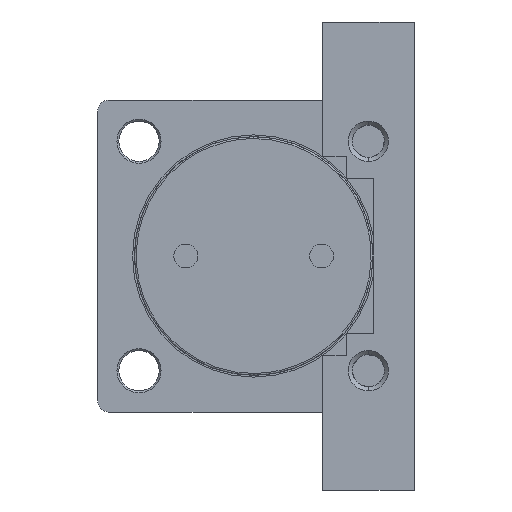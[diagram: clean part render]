
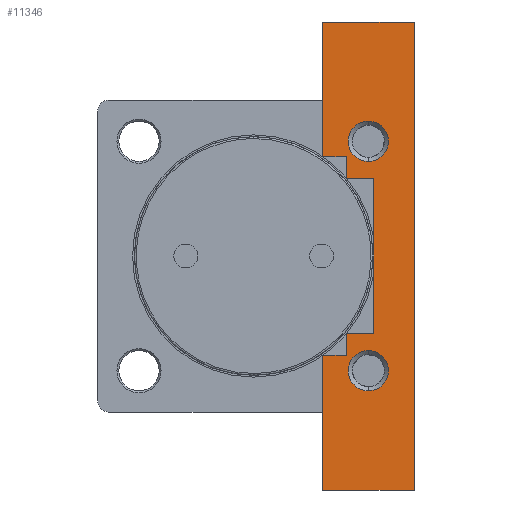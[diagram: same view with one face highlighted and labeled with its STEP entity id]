
A CAD part, left-side view. The second image highlights one B-rep face of the part: STEP entity #11346.
In plain terms, the highlighted planar face has unit normal (1, 0, 0).
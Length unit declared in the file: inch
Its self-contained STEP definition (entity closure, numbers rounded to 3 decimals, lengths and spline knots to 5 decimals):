
#1 = DIRECTION ( 'NONE',  ( -1., 0., 0. ) ) ;
#17 = CARTESIAN_POINT ( 'NONE',  ( -3.01181, -2.46063, -2.46063 ) ) ;
#115 = VECTOR ( 'NONE', #8293, 39.37008 ) ;
#143 = LINE ( 'NONE', #15084, #115 ) ;
#160 = VERTEX_POINT ( 'NONE', #4521 ) ;
#670 = ORIENTED_EDGE ( 'NONE', *, *, #14821, .T. ) ;
#686 = CIRCLE ( 'NONE', #14442, 0.43307 ) ;
#715 = CIRCLE ( 'NONE', #14086, 0.43307 ) ;
#759 = VECTOR ( 'NONE', #1115, 39.37008 ) ;
#893 = DIRECTION ( 'NONE',  ( 0., 1., 0. ) ) ;
#915 = CARTESIAN_POINT ( 'NONE',  ( -3.01181, -3.44488, 2.12598 ) ) ;
#944 = VERTEX_POINT ( 'NONE', #9192 ) ;
#1115 = DIRECTION ( 'NONE',  ( 0., 0., 1. ) ) ;
#1136 = EDGE_LOOP ( 'NONE', ( #15109, #15315 ) ) ;
#1256 = VERTEX_POINT ( 'NONE', #8843 ) ;
#1266 = DIRECTION ( 'NONE',  ( 0., 0., 1. ) ) ;
#1299 = CARTESIAN_POINT ( 'NONE',  ( -3.01181, -1.47638, 5.01969 ) ) ;
#1465 = DIRECTION ( 'NONE',  ( 0., 1., 0. ) ) ;
#1494 = CARTESIAN_POINT ( 'NONE',  ( -3.01181, -3.44488, 5.01969 ) ) ;
#1625 = CARTESIAN_POINT ( 'NONE',  ( -3.01181, -3.44488, 1.65354 ) ) ;
#1692 = DIRECTION ( 'NONE',  ( -1., 0., 0. ) ) ;
#2225 = CARTESIAN_POINT ( 'NONE',  ( -3.01181, -2.46063, -2.46063 ) ) ;
#2242 = DIRECTION ( 'NONE',  ( 0., 0., 1. ) ) ;
#2513 = VECTOR ( 'NONE', #2743, 39.37008 ) ;
#2672 = VECTOR ( 'NONE', #893, 39.37008 ) ;
#2743 = DIRECTION ( 'NONE',  ( 0., -1., 0. ) ) ;
#2776 = CARTESIAN_POINT ( 'NONE',  ( -3.01181, -3.44488, 5.01969 ) ) ;
#2893 = VECTOR ( 'NONE', #7925, 39.37008 ) ;
#3135 = ORIENTED_EDGE ( 'NONE', *, *, #15383, .T. ) ;
#3324 = CIRCLE ( 'NONE', #9706, 0.43307 ) ;
#3468 = LINE ( 'NONE', #2776, #2513 ) ;
#3507 = VERTEX_POINT ( 'NONE', #9901 ) ;
#3658 = DIRECTION ( 'NONE',  ( 0., -1., 0. ) ) ;
#3670 = ORIENTED_EDGE ( 'NONE', *, *, #15427, .T. ) ;
#3718 = CARTESIAN_POINT ( 'NONE',  ( -3.01181, -3.44488, 5.01969 ) ) ;
#3741 = LINE ( 'NONE', #915, #2672 ) ;
#3802 = CARTESIAN_POINT ( 'NONE',  ( -3.01181, -1.98819, -2.12598 ) ) ;
#3917 = CARTESIAN_POINT ( 'NONE',  ( -3.01181, -3.44488, -2.12598 ) ) ;
#3976 = ORIENTED_EDGE ( 'NONE', *, *, #9577, .T. ) ;
#4059 = LINE ( 'NONE', #5595, #4705 ) ;
#4149 = ORIENTED_EDGE ( 'NONE', *, *, #10950, .T. ) ;
#4180 = VERTEX_POINT ( 'NONE', #7267 ) ;
#4309 = ORIENTED_EDGE ( 'NONE', *, *, #15134, .T. ) ;
#4521 = CARTESIAN_POINT ( 'NONE',  ( -3.01181, -2.46063, -2.02756 ) ) ;
#4583 = ORIENTED_EDGE ( 'NONE', *, *, #15281, .T. ) ;
#4590 = VECTOR ( 'NONE', #1465, 39.37008 ) ;
#4623 = LINE ( 'NONE', #1299, #759 ) ;
#4705 = VECTOR ( 'NONE', #5653, 39.37008 ) ;
#4752 = ORIENTED_EDGE ( 'NONE', *, *, #11273, .F. ) ;
#4836 = LINE ( 'NONE', #1625, #4590 ) ;
#5278 = CARTESIAN_POINT ( 'NONE',  ( -3.01181, -1.98819, 2.12598 ) ) ;
#5595 = CARTESIAN_POINT ( 'NONE',  ( -3.01181, -1.98819, 5.01969 ) ) ;
#5653 = DIRECTION ( 'NONE',  ( 0., 0., 1. ) ) ;
#5717 = CIRCLE ( 'NONE', #7354, 0.43307 ) ;
#6037 = CARTESIAN_POINT ( 'NONE',  ( -3.01181, -3.44488, -5.01969 ) ) ;
#6068 = VERTEX_POINT ( 'NONE', #13607 ) ;
#6178 = CARTESIAN_POINT ( 'NONE',  ( -3.01181, -3.44488, -5.01969 ) ) ;
#6322 = CARTESIAN_POINT ( 'NONE',  ( -3.01181, -2.57874, -1.65354 ) ) ;
#6500 = LINE ( 'NONE', #1494, #15259 ) ;
#6929 = CARTESIAN_POINT ( 'NONE',  ( -3.01181, -2.46063, 2.8937 ) ) ;
#6995 = DIRECTION ( 'NONE',  ( 0., 0., 1. ) ) ;
#7267 = CARTESIAN_POINT ( 'NONE',  ( -3.01181, -1.47638, -5.01969 ) ) ;
#7354 = AXIS2_PLACEMENT_3D ( 'NONE', #17, #1, #6995 ) ;
#7655 = CARTESIAN_POINT ( 'NONE',  ( -3.01181, -1.47638, 5.01969 ) ) ;
#7925 = DIRECTION ( 'NONE',  ( 0., 0., 1. ) ) ;
#8293 = DIRECTION ( 'NONE',  ( 0., 0., 1. ) ) ;
#8382 = VERTEX_POINT ( 'NONE', #12964 ) ;
#8649 = VECTOR ( 'NONE', #3658, 39.37008 ) ;
#8730 = VERTEX_POINT ( 'NONE', #6178 ) ;
#8759 = PLANE ( 'NONE',  #11441 ) ;
#8843 = CARTESIAN_POINT ( 'NONE',  ( -3.01181, -1.98819, 1.65354 ) ) ;
#8981 = ORIENTED_EDGE ( 'NONE', *, *, #14450, .T. ) ;
#9192 = CARTESIAN_POINT ( 'NONE',  ( -3.01181, -1.98819, -1.65354 ) ) ;
#9233 = DIRECTION ( 'NONE',  ( 0., 1., 0. ) ) ;
#9386 = LINE ( 'NONE', #3917, #8649 ) ;
#9547 = CARTESIAN_POINT ( 'NONE',  ( -3.01181, -1.98819, 5.01969 ) ) ;
#9577 = EDGE_CURVE ( 'NONE', #10940, #944, #14075, .T. ) ;
#9702 = EDGE_CURVE ( 'NONE', #160, #10305, #686, .T. ) ;
#9706 = AXIS2_PLACEMENT_3D ( 'NONE', #11317, #11683, #11705 ) ;
#9746 = FACE_BOUND ( 'NONE', #1136, .T. ) ;
#9901 = CARTESIAN_POINT ( 'NONE',  ( -3.01181, -1.47638, -2.12598 ) ) ;
#9937 = VERTEX_POINT ( 'NONE', #12012 ) ;
#10042 = EDGE_CURVE ( 'NONE', #13049, #6068, #715, .T. ) ;
#10078 = VERTEX_POINT ( 'NONE', #14899 ) ;
#10119 = EDGE_LOOP ( 'NONE', ( #15205, #14888 ) ) ;
#10305 = VERTEX_POINT ( 'NONE', #12988 ) ;
#10323 = EDGE_LOOP ( 'NONE', ( #14770, #14495, #12588, #4752, #4583, #4309, #4149, #3976, #3670, #3135, #670, #8981 ) ) ;
#10940 = VERTEX_POINT ( 'NONE', #3802 ) ;
#10950 = EDGE_CURVE ( 'NONE', #3507, #10940, #9386, .T. ) ;
#11273 = EDGE_CURVE ( 'NONE', #8730, #10078, #6500, .T. ) ;
#11317 = CARTESIAN_POINT ( 'NONE',  ( -3.01181, -2.46063, 2.46063 ) ) ;
#11346 = ADVANCED_FACE ( 'NONE', ( #9746, #13848, #14562 ), #8759, .T. ) ;
#11441 = AXIS2_PLACEMENT_3D ( 'NONE', #3718, #14223, #14299 ) ;
#11671 = VERTEX_POINT ( 'NONE', #7655 ) ;
#11683 = DIRECTION ( 'NONE',  ( -1., 0., 0. ) ) ;
#11705 = DIRECTION ( 'NONE',  ( 0., 0., 1. ) ) ;
#11955 = EDGE_CURVE ( 'NONE', #11671, #10078, #3468, .T. ) ;
#12012 = CARTESIAN_POINT ( 'NONE',  ( -3.01181, -2.57874, 1.65354 ) ) ;
#12354 = EDGE_CURVE ( 'NONE', #6068, #13049, #3324, .T. ) ;
#12588 = ORIENTED_EDGE ( 'NONE', *, *, #11955, .T. ) ;
#12633 = LINE ( 'NONE', #6037, #12701 ) ;
#12701 = VECTOR ( 'NONE', #9233, 39.37008 ) ;
#12964 = CARTESIAN_POINT ( 'NONE',  ( -3.01181, -1.47638, 2.12598 ) ) ;
#12972 = LINE ( 'NONE', #14110, #13292 ) ;
#12988 = CARTESIAN_POINT ( 'NONE',  ( -3.01181, -2.46063, -2.8937 ) ) ;
#13049 = VERTEX_POINT ( 'NONE', #6929 ) ;
#13159 = VERTEX_POINT ( 'NONE', #5278 ) ;
#13203 = LINE ( 'NONE', #14240, #13232 ) ;
#13232 = VECTOR ( 'NONE', #14195, 39.37008 ) ;
#13292 = VECTOR ( 'NONE', #14091, 39.37008 ) ;
#13348 = EDGE_CURVE ( 'NONE', #10305, #160, #5717, .T. ) ;
#13607 = CARTESIAN_POINT ( 'NONE',  ( -3.01181, -2.46063, 2.02756 ) ) ;
#13848 = FACE_BOUND ( 'NONE', #10119, .T. ) ;
#14075 = LINE ( 'NONE', #9547, #2893 ) ;
#14086 = AXIS2_PLACEMENT_3D ( 'NONE', #14673, #14617, #14504 ) ;
#14091 = DIRECTION ( 'NONE',  ( 0., -1., 0. ) ) ;
#14110 = CARTESIAN_POINT ( 'NONE',  ( -3.01181, -3.44488, -1.65354 ) ) ;
#14195 = DIRECTION ( 'NONE',  ( 0., 0., 1. ) ) ;
#14223 = DIRECTION ( 'NONE',  ( 1., 0., 0. ) ) ;
#14240 = CARTESIAN_POINT ( 'NONE',  ( -3.01181, -2.57874, 5.01969 ) ) ;
#14299 = DIRECTION ( 'NONE',  ( 0., 0., -1. ) ) ;
#14313 = VERTEX_POINT ( 'NONE', #6322 ) ;
#14442 = AXIS2_PLACEMENT_3D ( 'NONE', #2225, #1692, #2242 ) ;
#14450 = EDGE_CURVE ( 'NONE', #1256, #13159, #4059, .T. ) ;
#14495 = ORIENTED_EDGE ( 'NONE', *, *, #14875, .T. ) ;
#14504 = DIRECTION ( 'NONE',  ( 0., 0., 1. ) ) ;
#14562 = FACE_OUTER_BOUND ( 'NONE', #10323, .T. ) ;
#14617 = DIRECTION ( 'NONE',  ( -1., 0., 0. ) ) ;
#14673 = CARTESIAN_POINT ( 'NONE',  ( -3.01181, -2.46063, 2.46063 ) ) ;
#14770 = ORIENTED_EDGE ( 'NONE', *, *, #14918, .T. ) ;
#14821 = EDGE_CURVE ( 'NONE', #9937, #1256, #4836, .T. ) ;
#14875 = EDGE_CURVE ( 'NONE', #8382, #11671, #4623, .T. ) ;
#14888 = ORIENTED_EDGE ( 'NONE', *, *, #13348, .T. ) ;
#14899 = CARTESIAN_POINT ( 'NONE',  ( -3.01181, -3.44488, 5.01969 ) ) ;
#14918 = EDGE_CURVE ( 'NONE', #13159, #8382, #3741, .T. ) ;
#15084 = CARTESIAN_POINT ( 'NONE',  ( -3.01181, -1.47638, 5.01969 ) ) ;
#15109 = ORIENTED_EDGE ( 'NONE', *, *, #10042, .T. ) ;
#15134 = EDGE_CURVE ( 'NONE', #4180, #3507, #143, .T. ) ;
#15205 = ORIENTED_EDGE ( 'NONE', *, *, #9702, .T. ) ;
#15259 = VECTOR ( 'NONE', #1266, 39.37008 ) ;
#15281 = EDGE_CURVE ( 'NONE', #8730, #4180, #12633, .T. ) ;
#15315 = ORIENTED_EDGE ( 'NONE', *, *, #12354, .T. ) ;
#15383 = EDGE_CURVE ( 'NONE', #14313, #9937, #13203, .T. ) ;
#15427 = EDGE_CURVE ( 'NONE', #944, #14313, #12972, .T. ) ;
